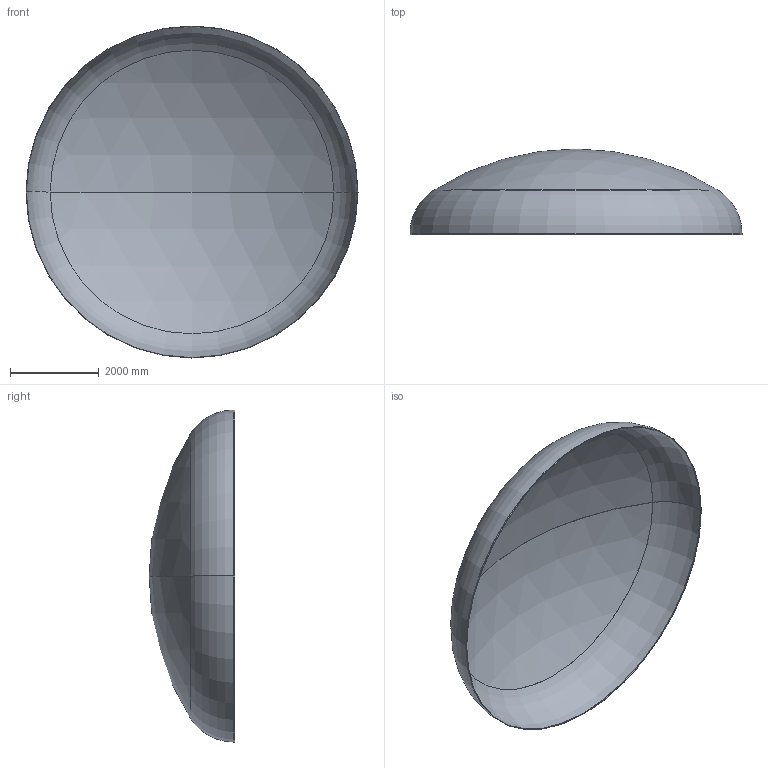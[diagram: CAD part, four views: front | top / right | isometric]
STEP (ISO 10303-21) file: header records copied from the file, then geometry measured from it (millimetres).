
FILE_DESCRIPTION (( 'STEP AP203' ), '1' );
FILE_NAME ('DIN 28013 Korbbogenform_-_Boden DIN 28013 - 7500 x 25 - I - s=7.step', '2016-07-04T10:50:59', ( '' ), ( '' ), 'SwSTEP 2.0', 'SolidWorks 2013', '' );
FILE_SCHEMA (( 'CONFIG_CONTROL_DESIGN' ));
Length unit declared in the file: millimetre
Products named in the file (1): DIN 28013 Korbbogenform_-_Boden DIN 28013 - 7500 x 25 - I - s=7
Bounding box: 7500 x 1936.11 x 7500 mm (x, y, z)
Volume: 431949044.7 mm3; surface area: 123578843.3 mm2
Topology: 1 solids, 1 shells, 13 faces, 24 edges, 14 vertices
Faces by surface type: torus 4, cylinder 4, sphere 4, plane 1
Entity records: 407 total; most frequent: DIRECTION 72, CARTESIAN_POINT 52, ORIENTED_EDGE 48, AXIS2_PLACEMENT_3D 34, EDGE_CURVE 24, CIRCLE 20, VERTEX_POINT 14, EDGE_LOOP 14
